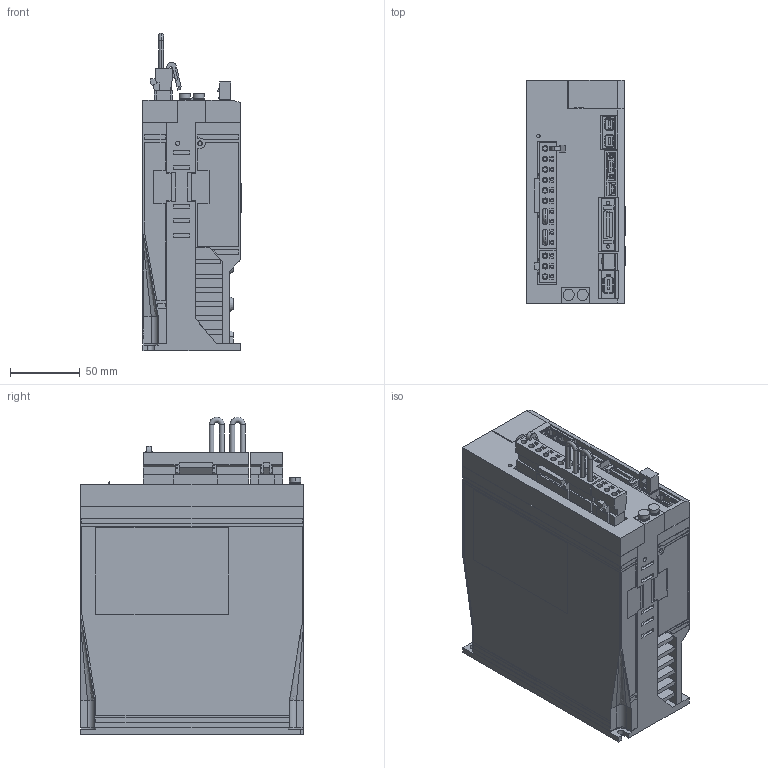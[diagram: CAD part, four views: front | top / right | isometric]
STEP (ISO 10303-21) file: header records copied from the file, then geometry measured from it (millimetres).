
FILE_DESCRIPTION (( 'STEP AP203' ), '1' );
FILE_NAME ('sgdv_3r8a2_a.STEP', '2012-09-07T04:21:19', ( '匠エンジニアリング山之内' ), ( 'TAKUMI-Engniaring' ), 'SwSTEP 2.0', 'SolidWorks 2006303', '' );
FILE_SCHEMA (( 'CONFIG_CONTROL_DESIGN' ));
Products named in the file (10): sgdv_3r8a2_a_cover; sgdv_3r8a2_a_cover2; sgdv_3r8a2_a; sgdv_3r8a2_a_base; sgdv_3r8a2_a_connector; sgdv_3r8a2_a_connector_2; sgdv_3r8a2_a_cable; sgdv_3r8a2_a_pin; sgdv_3r8a2_a_connector_1; sgdv_3r8a2_a_connector_3
Assembly tree (11 placements, depth 3):
  sgdv_3r8a2_a
    sgdv_3r8a2_a_connector_1
    sgdv_3r8a2_a_cover
    sgdv_3r8a2_a_connector_3
    sgdv_3r8a2_a_connector
      sgdv_3r8a2_a_cable  x2
      sgdv_3r8a2_a_connector_2
      sgdv_3r8a2_a_pin
    sgdv_3r8a2_a_base
    sgdv_3r8a2_a_cover2  x2
Bounding box: 70.5 x 160 x 228 mm (x, y, z)
Volume: 1878062.2 mm3; surface area: 165897.2 mm2
Topology: 10 solids, 10 shells, 2025 faces, 5305 edges, 3487 vertices
Faces by surface type: plane 1802, cylinder 205, cone 11, torus 4, bspline 2, sphere 1
Entity records: 61373 total; most frequent: CARTESIAN_POINT 10718, ORIENTED_EDGE 10450, DIRECTION 9650, EDGE_CURVE 5225, VECTOR 4792, LINE 4792, VERTEX_POINT 3435, AXIS2_PLACEMENT_3D 2429
